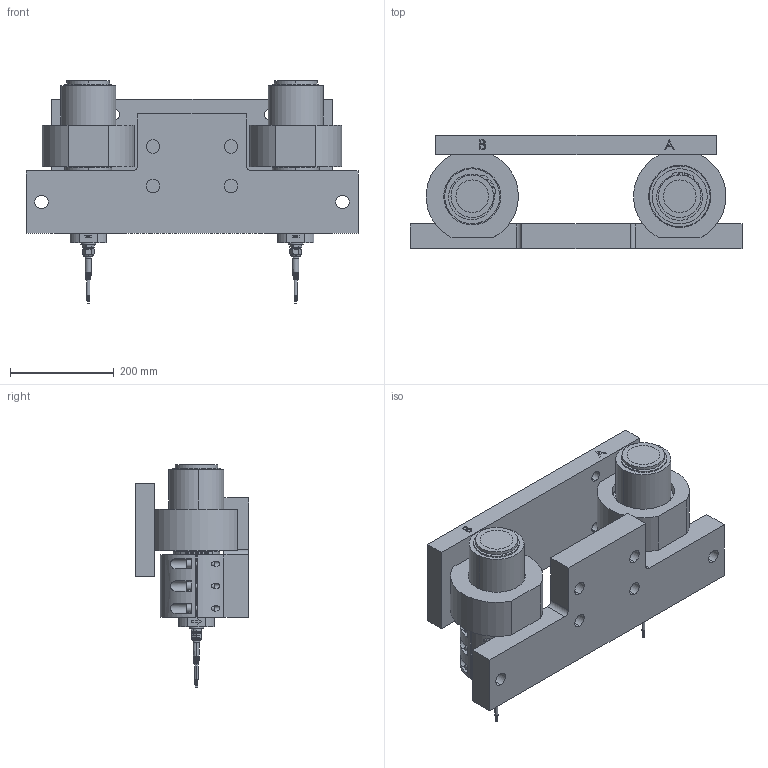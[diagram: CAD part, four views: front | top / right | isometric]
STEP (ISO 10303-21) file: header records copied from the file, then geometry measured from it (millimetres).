
FILE_DESCRIPTION (( 'STEP AP214' ), '1' );
FILE_NAME ('FMU-1 200 kN Module.STEP', '2021-06-17T08:51:47', ( '' ), ( '' ), 'SwSTEP 2.0', 'SolidWorks 2021', '' );
FILE_SCHEMA (( 'AUTOMOTIVE_DESIGN' ));
Length unit declared in the file: millimetre
Products named in the file (20): Standardkabel 4-Cond PVC; Wiberger-sga_90; SGA_82; Tätning Hylsa Silikon^1157653 - KIS-1 100kN - Rostfri; Pg9 - 1009.52 6_2_14; GE-90ET-2RS_GE-90ET-2RS; M26x1.5 - Pg9 - 6369829; 1157653 - KIS-1 100kN - Rostfri; Wiberger-frp_8x20; FMU-1 200 kN Module; SGH 135 - 79410135; Bottenplatta FMU-1 200 kN std; Överplatta FMU-1 200 kN std; Bearing-RingGE-90ET-2RS_GE-90ET-2RS; 600345r0; Wiberger-din912_m10x45; 4095994r3; 5196892r1; 600346r0; Bearing-BallGE-90ET-2RS_GE-90ET-2RS
Assembly tree (28 placements, depth 3):
  FMU-1 200 kN Module
    Bottenplatta FMU-1 200 kN std
    Överplatta FMU-1 200 kN std
    1157653 - KIS-1 100kN - Rostfri  x2
      4095994r3
      5196892r1
      Tätning Hylsa Silikon^1157653 - KIS-1 100kN - Rostfri
      Pg9 - 1009.52 6_2_14
      Standardkabel 4-Cond PVC
      Wiberger-frp_8x20
      M26x1.5 - Pg9 - 6369829
    600345r0
    600346r0  x2
    GE-90ET-2RS_GE-90ET-2RS
      Bearing-RingGE-90ET-2RS_GE-90ET-2RS
      Bearing-BallGE-90ET-2RS_GE-90ET-2RS
    SGH 135 - 79410135
    SGA_82  x2
    Wiberger-sga_90  x2
    Wiberger-din912_m10x45  x6
Bounding box: 640 x 219 x 429 mm (x, y, z)
Volume: 16948532.4 mm3; surface area: 1617663.5 mm2
Topology: 34 solids, 40 shells, 1438 faces, 3434 edges, 2187 vertices
Faces by surface type: plane 657, cylinder 449, cone 168, bspline 128, torus 32, sphere 4
Entity records: 36304 total; most frequent: CARTESIAN_POINT 13121, ORIENTED_EDGE 3862, DIRECTION 3834, EDGE_CURVE 1931, AXIS2_PLACEMENT_3D 1400, VERTEX_POINT 1257, VECTOR 1034, LINE 1034
